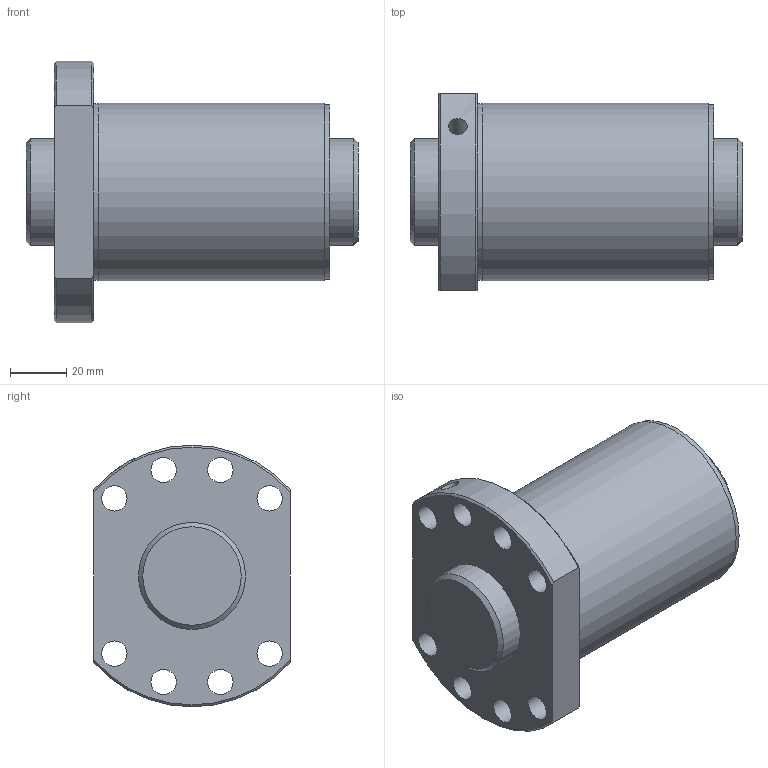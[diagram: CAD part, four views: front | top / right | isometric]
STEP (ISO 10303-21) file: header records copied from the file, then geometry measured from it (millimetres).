
FILE_DESCRIPTION(/* description */ ('STEP AP203'),/* implementation_level */ '2;1');
FILE_NAME(/* name */ 'SDA3830V-3G0+118LC0(0G000)',/* time_stamp */ '2024-05-28T11:41:51+02:00',/* author */ ('License CC BY-ND 4.0'),/* organization */ ('CADENAS'),/* preprocessor_version */ 'ST-DEVELOPER v19.3',/* originating_system */ 'PARTsolutions',/* authorisation */ ' ');
FILE_SCHEMA (('CONFIG_CONTROL_DESIGN'));
Length unit declared in the file: millimetre
Products named in the file (3): SDA3830V-3G0+118LC0(0G000); 000SDA3830V-30Shaft; SDA-V serieSDA3830V-3nut
Assembly tree (2 placements, depth 2):
  SDA3830V-3G0+118LC0(0G000)
    000SDA3830V-30Shaft
    SDA-V serieSDA3830V-3nut
Bounding box: 118 x 70 x 93 mm (x, y, z)
Volume: 357554.5 mm3; surface area: 60360.6 mm2
Topology: 2 solids, 2 shells, 33 faces, 75 edges, 49 vertices
Faces by surface type: cylinder 17, plane 9, cone 7
Full cylindrical faces by diameter (mm): 5.2 x1, 6.647 x1, 9 x8, 38 x2, 62 x1, 62.6 x1, 63 x1
Entity records: 983 total; most frequent: CARTESIAN_POINT 184, DIRECTION 156, ORIENTED_EDGE 112, EDGE_LOOP 74, FACE_BOUND 74, AXIS2_PLACEMENT_3D 74, EDGE_CURVE 56, VERTEX_POINT 48
